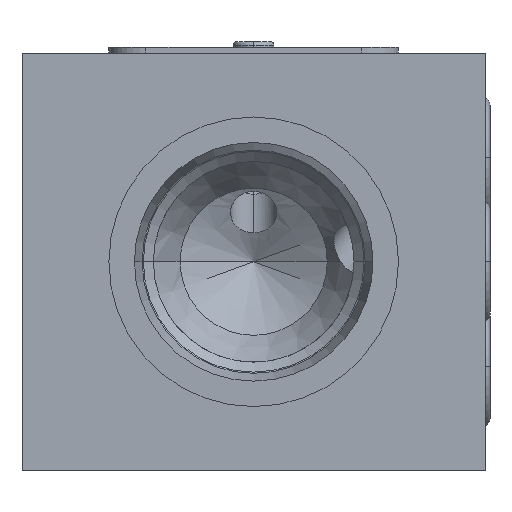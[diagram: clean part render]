
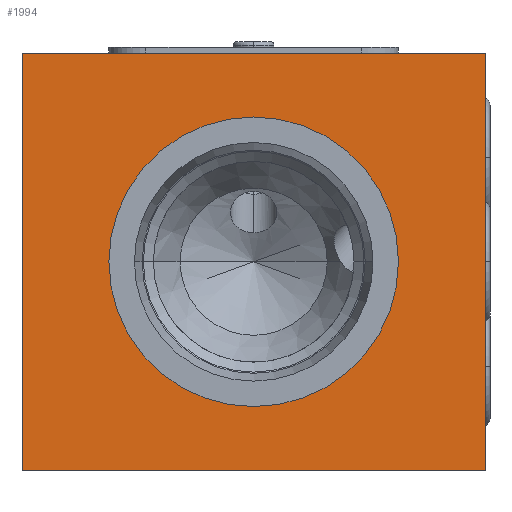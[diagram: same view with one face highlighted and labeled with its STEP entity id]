
A CAD part, left-side view. The second image highlights one B-rep face of the part: STEP entity #1994.
In plain terms, the highlighted planar face has unit normal (-1, 0, 0).
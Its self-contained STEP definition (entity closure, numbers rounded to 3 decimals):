
#54=DIRECTION('',(0.,0.,-1.));
#55=VECTOR('',#54,36.);
#56=CARTESIAN_POINT('',(0.,0.,0.));
#57=LINE('',#56,#55);
#58=DIRECTION('',(0.,1.,0.));
#59=VECTOR('',#58,40.);
#60=CARTESIAN_POINT('',(0.,0.,-36.));
#61=LINE('',#60,#59);
#62=DIRECTION('',(0.,0.,1.));
#63=VECTOR('',#62,36.);
#64=CARTESIAN_POINT('',(0.,40.,-36.));
#65=LINE('',#64,#63);
#66=DIRECTION('',(0.,-1.,0.));
#67=VECTOR('',#66,40.);
#68=CARTESIAN_POINT('',(0.,40.,0.));
#69=LINE('',#68,#67);
#70=CARTESIAN_POINT('',(0.,20.,-18.));
#71=DIRECTION('',(1.,0.,0.));
#72=DIRECTION('',(0.,-1.,0.));
#73=AXIS2_PLACEMENT_3D('',#70,#71,#72);
#75=CARTESIAN_POINT('',(0.,20.,-18.));
#76=DIRECTION('',(1.,0.,0.));
#77=DIRECTION('',(0.,1.,0.));
#78=AXIS2_PLACEMENT_3D('',#75,#76,#77);
#1721=CARTESIAN_POINT('',(0.,0.,0.));
#1722=CARTESIAN_POINT('',(0.,0.,-36.));
#1723=VERTEX_POINT('',#1721);
#1724=VERTEX_POINT('',#1722);
#1725=CARTESIAN_POINT('',(0.,40.,-36.));
#1726=VERTEX_POINT('',#1725);
#1727=CARTESIAN_POINT('',(0.,40.,0.));
#1728=VERTEX_POINT('',#1727);
#1839=CARTESIAN_POINT('',(0.,7.5,-18.));
#1840=VERTEX_POINT('',#1839);
#1841=CARTESIAN_POINT('',(0.,32.5,-18.));
#1842=VERTEX_POINT('',#1841);
#1973=CARTESIAN_POINT('',(0.,0.,0.));
#1974=DIRECTION('',(1.,0.,0.));
#1975=DIRECTION('',(0.,0.,-1.));
#1976=AXIS2_PLACEMENT_3D('',#1973,#1974,#1975);
#1977=PLANE('',#1976);
#1979=ORIENTED_EDGE('',*,*,#1978,.T.);
#1981=ORIENTED_EDGE('',*,*,#1980,.T.);
#1983=ORIENTED_EDGE('',*,*,#1982,.T.);
#1985=ORIENTED_EDGE('',*,*,#1984,.T.);
#1986=EDGE_LOOP('',(#1979,#1981,#1983,#1985));
#1987=FACE_OUTER_BOUND('',#1986,.F.);
#1989=ORIENTED_EDGE('',*,*,#1988,.F.);
#1991=ORIENTED_EDGE('',*,*,#1990,.F.);
#1992=EDGE_LOOP('',(#1989,#1991));
#1993=FACE_BOUND('',#1992,.F.);
#74=CIRCLE('',#73,12.5);
#79=CIRCLE('',#78,12.5);
#1978=EDGE_CURVE('',#1723,#1724,#57,.T.);
#1980=EDGE_CURVE('',#1724,#1726,#61,.T.);
#1982=EDGE_CURVE('',#1726,#1728,#65,.T.);
#1984=EDGE_CURVE('',#1728,#1723,#69,.T.);
#1988=EDGE_CURVE('',#1840,#1842,#74,.T.);
#1990=EDGE_CURVE('',#1842,#1840,#79,.T.);
#1994=ADVANCED_FACE('',(#1987,#1993),#1977,.F.);
